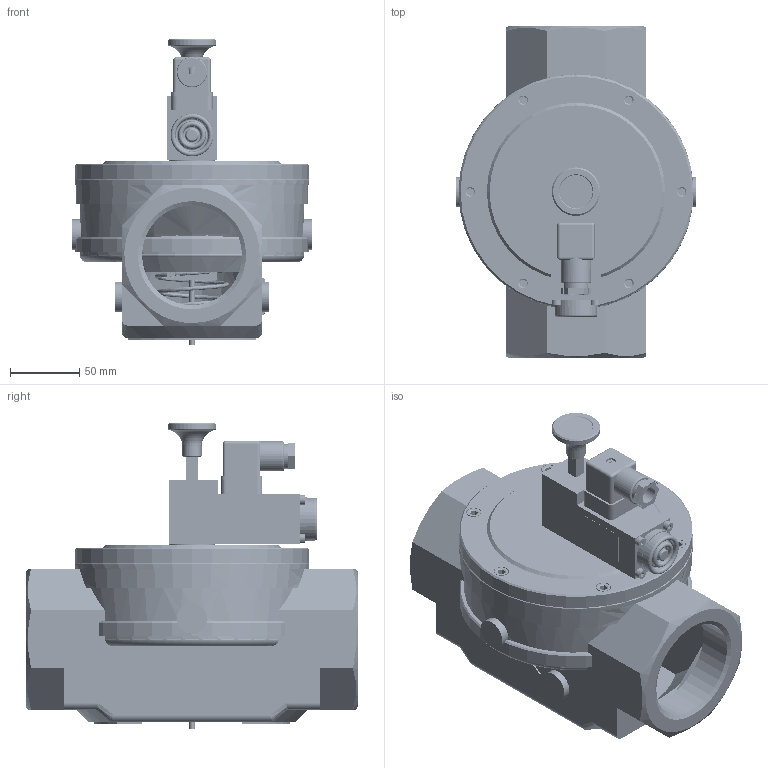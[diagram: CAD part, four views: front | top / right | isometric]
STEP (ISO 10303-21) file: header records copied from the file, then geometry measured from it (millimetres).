
FILE_DESCRIPTION( ( 'Unknown' ), '1' );
FILE_NAME( 'D:/Wyroby/Widoki gabarytowe/Zawory ZB/ZB_65/ZB_65.stp', 'Unknown', ( 'Unknown' ), ( 'Unknown' ), 'XStep 1.0', 'Unknown', ' ' );
FILE_SCHEMA( ( 'CONFIG_CONTROL_DESIGN' ) );
Length unit declared in the file: millimetre
Products named in the file (73): Z³¹cze_C18211G21; Wa_209_01_01; Wa_053_01_01bez_korków; Wa_108_01_01; ElektromagnesZB_z_wtyczk¹; Gniazdo_wtykowe_B282; Wa_209_01_00; Assem1; Wa_108_01_00; Wa_209_01_01bez_ko³ka; Ko³ek 3x40; cokó³_gniazda_wtykowego_B282; Wk³adka; Blaszka_uziemienia; Blaszka_fazy; Uszczelka_coko³u; Obudowa; Kostka; Uszczelka; Wkrêt_M3x30; Œruba_d³awika; Uszczelka_d³awika; Wa_108_01_01_001zaciœniety; Wa_053_01_02_002; Wa_053_01_02_003zaci從i黎a; Wa_209_02_00_008; Wa_209_02_00_007; Wa_209_01_00_001; Wa_209_01_00_002; Wa_209_01_00_003; Wa_209_01_00_004; Wa_209_01_00_005; W-039M3x9; Wa_209_01_00_007; ImbusM4x65; Wa_209_01_00_006彡i從i黎a7; Wa_209_01_00_011; Uzwojenie_Wa_209_01_02; zywica; Wa_209_01_00_012zaci從i黎a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
Bounding box: 173 x 240 x 221.5 mm (x, y, z)
Volume: 5377380 mm3; surface area: 1887504.9 mm2
Topology: 245 solids, 257 shells, 4742 faces, 11260 edges, 7364 vertices
Faces by surface type: plane 2832, cylinder 1273, cone 451, torus 131, sphere 29, bspline 26
Full cylindrical faces by diameter (mm): 1.6 x8, 2 x6, 2.1 x8, 2.459 x13, 2.5 x6, 3 x28, 3.2 x16, 3.242 x12, 3.5 x20, 4 x31, 4.1 x3, 4.5 x26, 4.917 x27, 5 x20, 5.2 x4, 5.5 x30, 5.9 x3, 6 x37, 6.1 x3, 6.5 x10, 6.6 x18, 6.647 x3, 7 x26, 7.5 x5, 8 x20, 8.4 x4, 9 x8, 10 x18, 10.917 x3, 11 x23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
Entity records: 39713 total; most frequent: CARTESIAN_POINT 11210, DIRECTION 5336, ORIENTED_EDGE 4468, EDGE_CURVE 2234, AXIS2_PLACEMENT_3D 2018, EDGE_LOOP 1764, VERTEX_POINT 1668, FACE_OUTER_BOUND 1419
